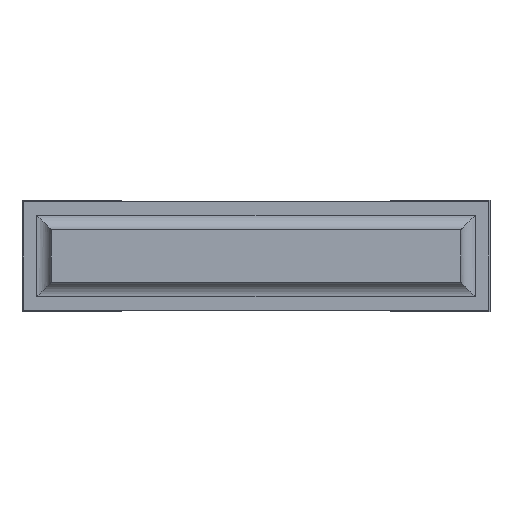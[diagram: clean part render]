
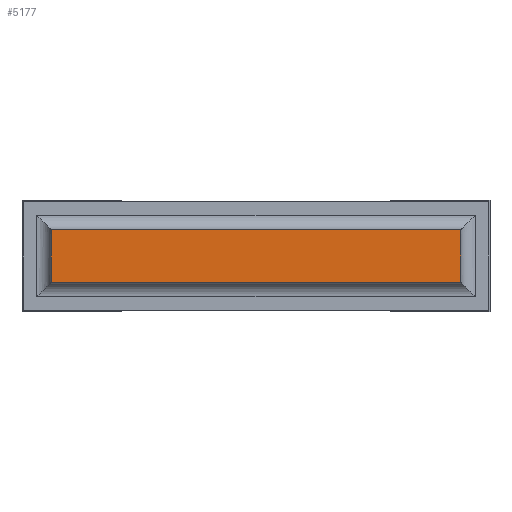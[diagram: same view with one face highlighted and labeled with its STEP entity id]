
A CAD part, front view. The second image highlights one B-rep face of the part: STEP entity #5177.
In plain terms, the highlighted planar face has unit normal (0, -1, 0).
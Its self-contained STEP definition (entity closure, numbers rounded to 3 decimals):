
#387=FACE_OUTER_BOUND('',#712,.T.);
#712=EDGE_LOOP('',(#4195,#4196,#4197,#4198));
#1201=LINE('',#7994,#1853);
#1204=LINE('',#8004,#1856);
#1216=LINE('',#8031,#1868);
#1218=LINE('',#8035,#1870);
#1853=VECTOR('',#6565,10.);
#1856=VECTOR('',#6576,10.);
#1868=VECTOR('',#6600,10.);
#1870=VECTOR('',#6606,10.);
#2401=VERTEX_POINT('',#7991);
#2402=VERTEX_POINT('',#7993);
#2405=VERTEX_POINT('',#8003);
#2414=VERTEX_POINT('',#8030);
#3017=EDGE_CURVE('',#2402,#2401,#1201,.T.);
#3022=EDGE_CURVE('',#2405,#2401,#1204,.T.);
#3036=EDGE_CURVE('',#2402,#2414,#1216,.T.);
#3038=EDGE_CURVE('',#2414,#2405,#1218,.T.);
#4195=ORIENTED_EDGE('',*,*,#3038,.F.);
#4196=ORIENTED_EDGE('',*,*,#3036,.F.);
#4197=ORIENTED_EDGE('',*,*,#3017,.T.);
#4198=ORIENTED_EDGE('',*,*,#3022,.F.);
#4871=PLANE('',#5583);
#5177=ADVANCED_FACE('',(#387),#4871,.T.);
#5583=AXIS2_PLACEMENT_3D('',#8036,#6607,#6608);
#6565=DIRECTION('',(0.,0.,-1.));
#6576=DIRECTION('',(-1.,0.,0.));
#6600=DIRECTION('',(1.,0.,0.));
#6606=DIRECTION('',(0.,0.,-1.));
#6607=DIRECTION('center_axis',(0.,-1.,0.));
#6608=DIRECTION('ref_axis',(0.,0.,-1.));
#7991=CARTESIAN_POINT('',(0.1,0.,0.1));
#7993=CARTESIAN_POINT('',(0.1,0.,0.28));
#7994=CARTESIAN_POINT('',(0.1,0.,0.28));
#8003=CARTESIAN_POINT('',(1.5,0.,0.1));
#8004=CARTESIAN_POINT('',(1.5,0.,0.1));
#8030=CARTESIAN_POINT('',(1.5,0.,0.28));
#8031=CARTESIAN_POINT('',(0.1,0.,0.28));
#8035=CARTESIAN_POINT('',(1.5,0.,0.28));
#8036=CARTESIAN_POINT('Origin',(1.5,0.,0.19));
